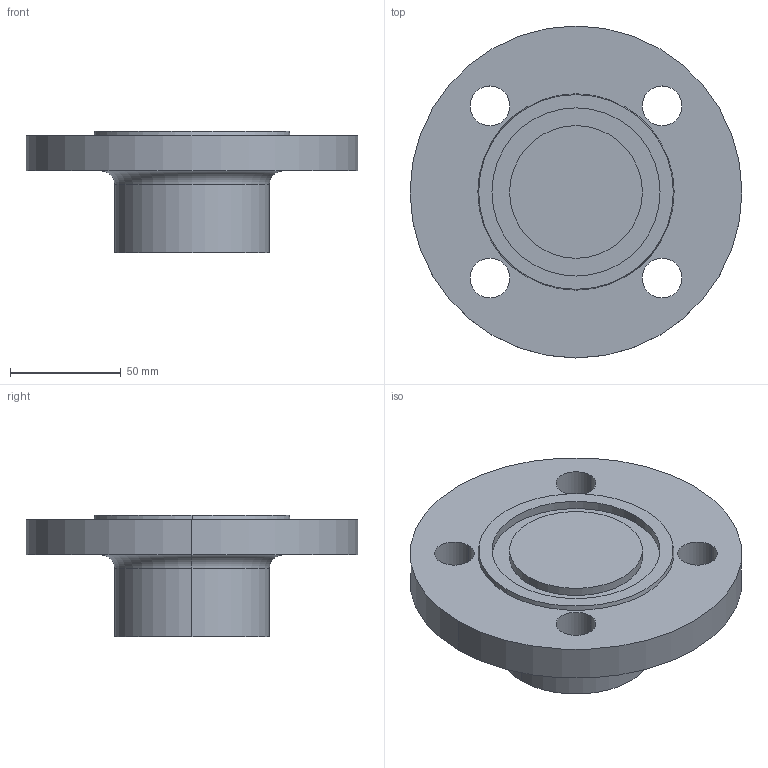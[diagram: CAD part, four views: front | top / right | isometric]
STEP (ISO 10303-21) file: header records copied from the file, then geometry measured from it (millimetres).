
FILE_DESCRIPTION (( 'STEP AP214' ), '1' );
FILE_NAME ('PN40 DN40 Type 21(i) - Type D Face.STEP', '2018-12-30T01:32:09', ( '' ), ( '' ), 'SwSTEP 2.0', 'SolidWorks 2019', '' );
FILE_SCHEMA (( 'AUTOMOTIVE_DESIGN' ));
Length unit declared in the file: millimetre
Products named in the file (1): PN40 DN40 Type 21(i) - Type D Face
Bounding box: 150 x 150 x 55 mm (x, y, z)
Volume: 416039.9 mm3; surface area: 54227.4 mm2
Topology: 1 solids, 1 shells, 26 faces, 58 edges, 38 vertices
Faces by surface type: cylinder 16, plane 6, torus 2, cone 2
Entity records: 796 total; most frequent: DIRECTION 152, CARTESIAN_POINT 123, ORIENTED_EDGE 116, AXIS2_PLACEMENT_3D 67, EDGE_CURVE 58, CIRCLE 40, EDGE_LOOP 38, VERTEX_POINT 38
